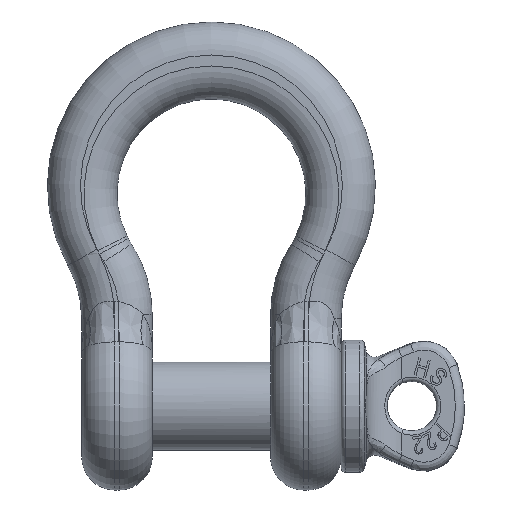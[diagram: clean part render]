
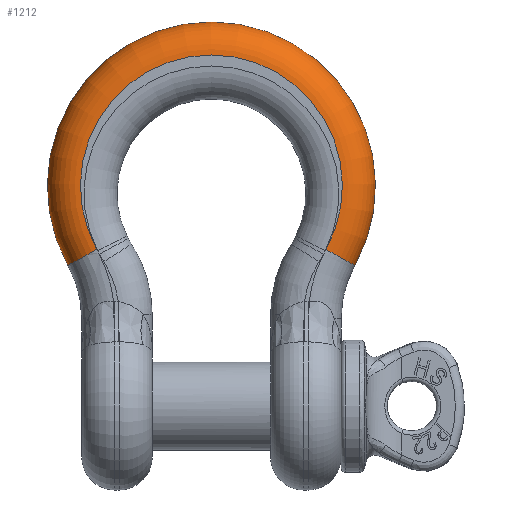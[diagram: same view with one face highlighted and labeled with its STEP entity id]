
A CAD part, top view. The second image highlights one B-rep face of the part: STEP entity #1212.
In plain terms, the highlighted toroidal (fillet/blend) face has major radius 29.75 mm and minor radius 7.5 mm.
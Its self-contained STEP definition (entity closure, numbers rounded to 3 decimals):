
#404=TOROIDAL_SURFACE('',#10512,29.75,7.5);
#652=FACE_OUTER_BOUND('',#3241,.T.);
#1212=ADVANCED_FACE('',(#652),#404,.T.);
#2817=CIRCLE('',#10453,29.75);
#2831=CIRCLE('',#10474,37.25);
#2854=CIRCLE('',#10508,7.5);
#2855=CIRCLE('',#10511,7.5);
#3241=EDGE_LOOP('',(#5036,#5037,#5038,#5039));
#5036=ORIENTED_EDGE('',*,*,#8462,.T.);
#5037=ORIENTED_EDGE('',*,*,#8387,.F.);
#5038=ORIENTED_EDGE('',*,*,#8469,.F.);
#5039=ORIENTED_EDGE('',*,*,#8414,.F.);
#7192=VERTEX_POINT('',#18703);
#7195=VERTEX_POINT('',#18708);
#7217=VERTEX_POINT('',#18796);
#7218=VERTEX_POINT('',#18800);
#8387=EDGE_CURVE('',#7195,#7192,#2817,.T.);
#8414=EDGE_CURVE('',#7218,#7217,#2831,.T.);
#8462=EDGE_CURVE('',#7218,#7192,#2854,.T.);
#8469=EDGE_CURVE('',#7217,#7195,#2855,.T.);
#10453=AXIS2_PLACEMENT_3D('',#18709,#11650,#11651);
#10474=AXIS2_PLACEMENT_3D('',#18801,#11700,#11701);
#10508=AXIS2_PLACEMENT_3D('',#18929,#11783,#11784);
#10511=AXIS2_PLACEMENT_3D('',#18968,#11789,#11790);
#10512=AXIS2_PLACEMENT_3D('',#18969,#11791,#11792);
#11650=DIRECTION('',(0.,0.,1.));
#11651=DIRECTION('',(-1.,0.,0.));
#11700=DIRECTION('',(0.,0.,-1.));
#11701=DIRECTION('',(-1.,0.,0.));
#11783=DIRECTION('',(-0.485,0.875,0.));
#11784=DIRECTION('',(-0.875,-0.485,0.));
#11789=DIRECTION('',(-0.485,-0.875,0.));
#11790=DIRECTION('',(0.875,-0.485,0.));
#11791=DIRECTION('',(0.,0.,-1.));
#11792=DIRECTION('',(-1.,0.,0.));
#18703=CARTESIAN_POINT('',(-26.022,-14.419,8.));
#18708=CARTESIAN_POINT('',(26.022,-14.419,8.));
#18709=CARTESIAN_POINT('',(0.,0.,8.));
#18796=CARTESIAN_POINT('',(32.583,-18.054,0.5));
#18800=CARTESIAN_POINT('',(-32.583,-18.054,0.5));
#18801=CARTESIAN_POINT('',(0.,0.,0.5));
#18929=CARTESIAN_POINT('',(-26.022,-14.419,0.5));
#18968=CARTESIAN_POINT('',(26.022,-14.419,0.5));
#18969=CARTESIAN_POINT('',(0.,0.,0.5));
